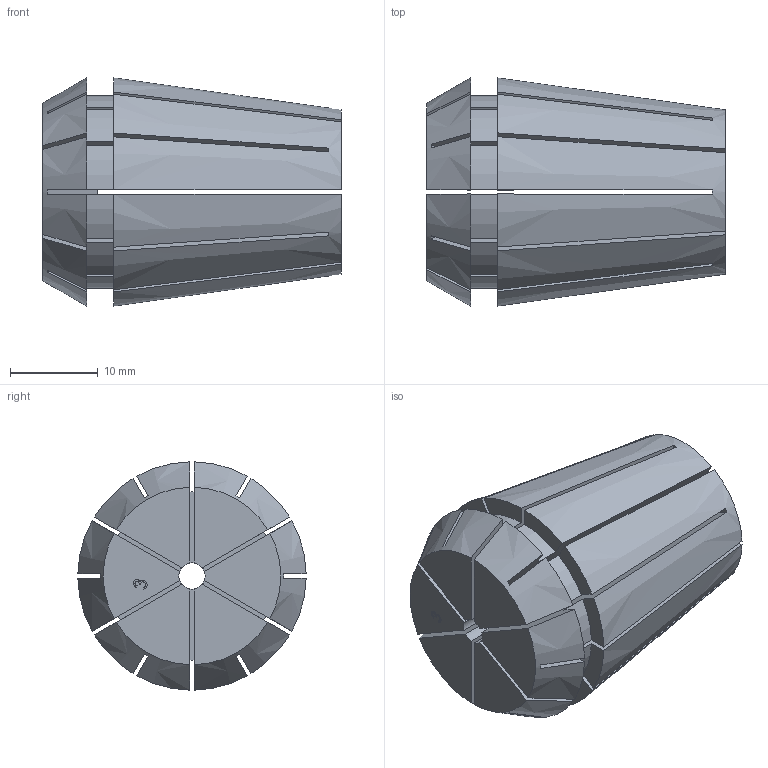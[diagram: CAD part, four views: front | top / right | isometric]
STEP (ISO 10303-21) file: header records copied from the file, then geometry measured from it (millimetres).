
FILE_DESCRIPTION(('STEP AP214'), '1');
FILE_NAME('ﾖ瑙聰 ER25-3', '', ('UNSPECIFIED'), ('UNSPECIFIED'), 'ASCON STEP Converter 1.6', 'ASCON Math Kernel', '');
FILE_SCHEMA(('AUTOMOTIVE_DESIGN { 1 0 10303 214 3 1 1}'));
Length unit declared in the file: millimetre
Bounding box: 34 x 26 x 26 mm (x, y, z)
Volume: 11449.3 mm3; surface area: 10712.3 mm2
Topology: 1 solids, 1 shells, 115 faces, 342 edges, 228 vertices
Faces by surface type: plane 76, bspline 14, cylinder 13, cone 12
Full cylindrical faces by diameter (mm): 3 x1
Entity records: 5969 total; most frequent: CARTESIAN_POINT 2062, ORIENTED_EDGE 682, DIRECTION 541, EDGE_CURVE 341, VERTEX_POINT 228, AXIS2_PLACEMENT_3D 187, LINE 167, VECTOR 167
